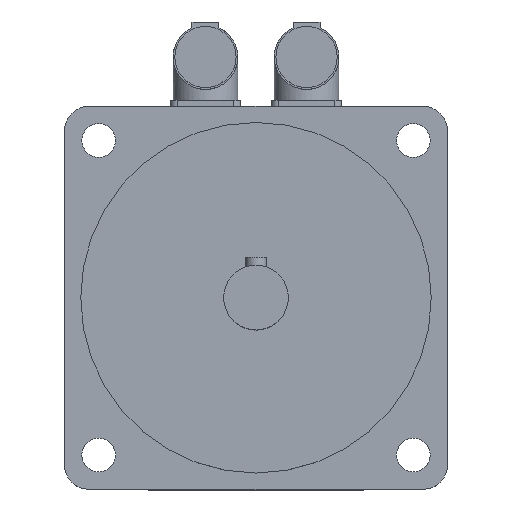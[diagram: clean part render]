
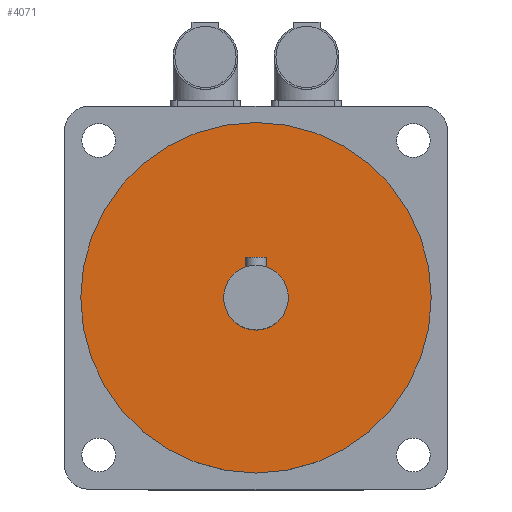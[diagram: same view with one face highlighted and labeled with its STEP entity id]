
A CAD part, top view. The second image highlights one B-rep face of the part: STEP entity #4071.
In plain terms, the highlighted planar face has unit normal (0, 0, 1).
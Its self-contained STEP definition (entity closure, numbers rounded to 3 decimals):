
#28=FACE_BOUND('',#533,.T.);
#79=PLANE('',#4432);
#278=FACE_OUTER_BOUND('',#532,.T.);
#532=EDGE_LOOP('',(#2985));
#533=EDGE_LOOP('',(#2986));
#1517=CIRCLE('',#4427,12.);
#1518=CIRCLE('',#4430,65.);
#1774=VERTEX_POINT('',#6532);
#1775=VERTEX_POINT('',#6536);
#2232=EDGE_CURVE('',#1774,#1774,#1517,.T.);
#2233=EDGE_CURVE('',#1775,#1775,#1518,.T.);
#2985=ORIENTED_EDGE('',*,*,#2233,.T.);
#2986=ORIENTED_EDGE('',*,*,#2232,.T.);
#4071=ADVANCED_FACE('',(#278,#28),#79,.F.);
#4427=AXIS2_PLACEMENT_3D('',#6533,#5205,#5206);
#4430=AXIS2_PLACEMENT_3D('',#6537,#5211,#5212);
#4432=AXIS2_PLACEMENT_3D('',#6540,#5215,#5216);
#5205=DIRECTION('center_axis',(0.,0.,
-1.));
#5206=DIRECTION('ref_axis',(-1.,0.,0.));
#5211=DIRECTION('center_axis',(0.,0.,
1.));
#5212=DIRECTION('ref_axis',(-1.,0.,0.));
#5215=DIRECTION('center_axis',(0.,0.,
-1.));
#5216=DIRECTION('ref_axis',(-1.,0.,0.));
#6532=CARTESIAN_POINT('',(12.,0.,151.5));
#6533=CARTESIAN_POINT('Origin',(0.,0.,
151.5));
#6536=CARTESIAN_POINT('',(65.,0.,151.5));
#6537=CARTESIAN_POINT('Origin',(0.,0.,
151.5));
#6540=CARTESIAN_POINT('Origin',(0.,0.,
151.5));
